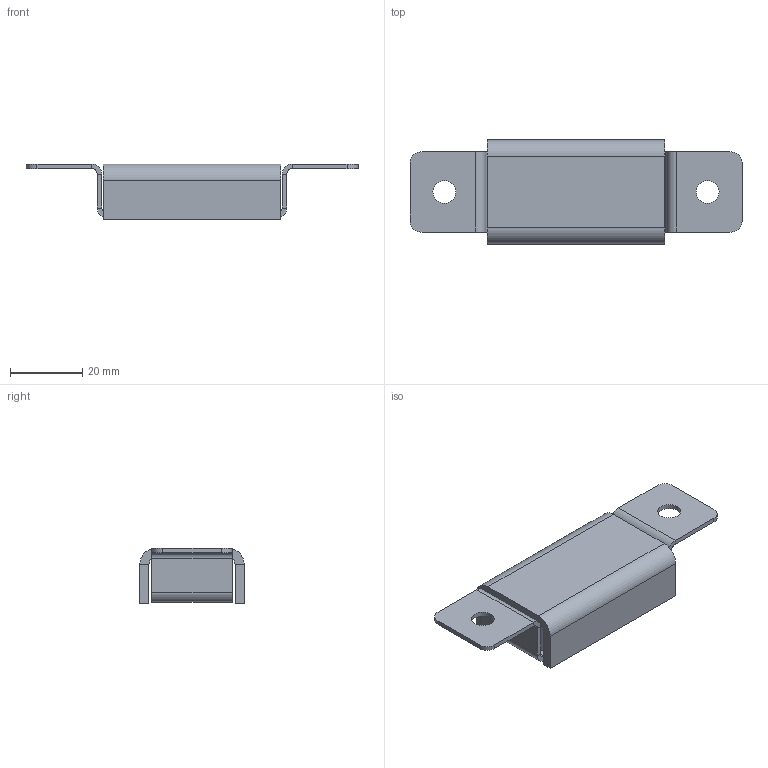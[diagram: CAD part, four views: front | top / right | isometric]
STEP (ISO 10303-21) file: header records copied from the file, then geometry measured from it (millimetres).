
FILE_DESCRIPTION (( 'STEP AP203' ), '1' );
FILE_NAME ('SS2103.STEP', '2018-07-27T17:34:57', ( '' ), ( '' ), 'SwSTEP 2.0', 'SolidWorks 2015', '' );
FILE_SCHEMA (( 'CONFIG_CONTROL_DESIGN' ));
Length unit declared in the file: inch
Products named in the file (1): SS2103
Bounding box: 92.07 x 28.96 x 15.49 mm (x, y, z)
Volume: 19739.7 mm3; surface area: 14449.7 mm2
Topology: 3 solids, 3 shells, 78 faces, 168 edges, 96 vertices
Faces by surface type: plane 54, cylinder 24
Entity records: 2139 total; most frequent: DIRECTION 374, CARTESIAN_POINT 343, ORIENTED_EDGE 336, EDGE_CURVE 168, AXIS2_PLACEMENT_3D 127, VECTOR 120, LINE 120, VERTEX_POINT 96
